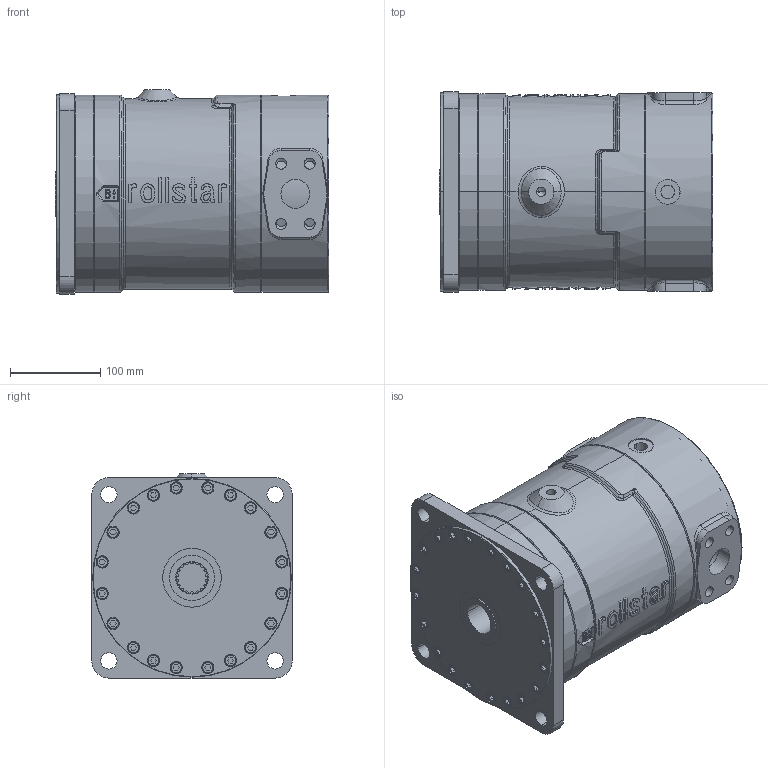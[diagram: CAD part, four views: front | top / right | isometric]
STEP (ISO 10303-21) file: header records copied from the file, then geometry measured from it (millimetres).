
FILE_DESCRIPTION(('Creo Elements/Direct Modeling STEP Export'),'2;1');
FILE_NAME('AM160_220 radial.stp','2017-07-10T14:59:06',(''),(''),'PTC Creo Elements/Direct Modeling STEP processor for AP214 (Solid Model)','PTC Creo Elements/Direct Modeling 19.0C 15-Aug-2015 (C) Parametric Technology GmbH','');
FILE_SCHEMA(('AUTOMOTIVE_DESIGN { 1 0 10303 214 1 1 1 1 }'));
Products named in the file (2): AM160_220
Assembly tree (1 placements, depth 2):
  AM160_220
    AM160_220
Bounding box: 303 x 222 x 226 mm (x, y, z)
Volume: 11000073.7 mm3; surface area: 379900.8 mm2
Topology: 1 solids, 1 shells, 1404 faces, 3508 edges, 2282 vertices
Faces by surface type: plane 784, cylinder 361, cone 120, extrusion 83, bspline 38, torus 18
Entity records: 82708 total; most frequent: CARTESIAN_POINT 45621, ORIENTED_EDGE 7008, DIRECTION 6007, EDGE_CURVE 3504, VECTOR 2327, VERTEX_POINT 2282, LINE 2244, AXIS2_PLACEMENT_3D 1840
